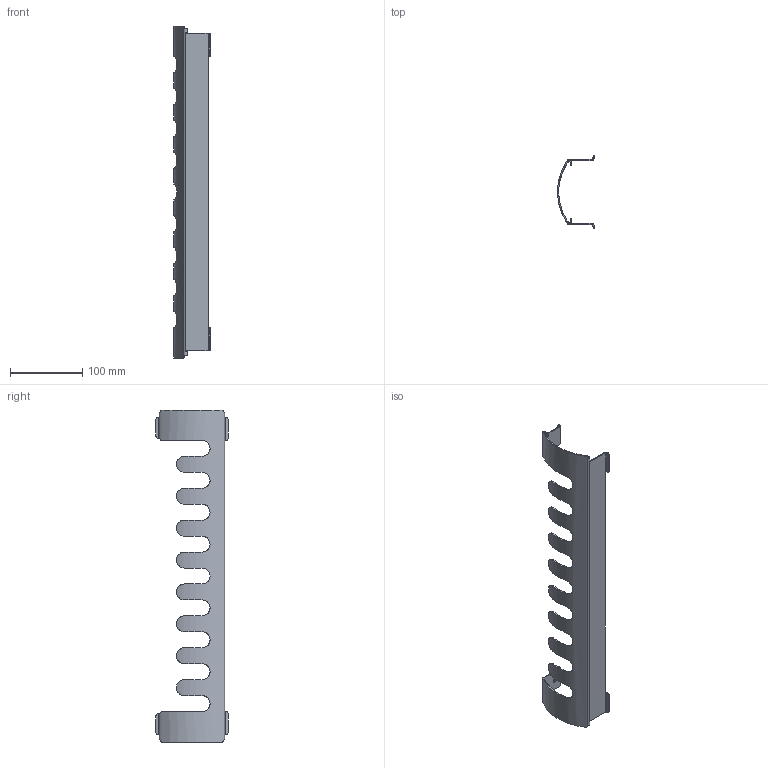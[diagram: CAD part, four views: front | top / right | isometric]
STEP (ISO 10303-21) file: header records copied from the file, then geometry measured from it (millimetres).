
FILE_DESCRIPTION((''),'2;1');
FILE_NAME('Z:\R\G\P\RGP035 - Grzejnik Simple\Work\Inventor\Marketing\AutoCad 3D\Simple 500 Wieszak.stp','2012-07-24T14:08:27',('DawPi'),(''),'Autodesk Inventor 2012','Autodesk Inventor 2012','');
FILE_SCHEMA(('AUTOMOTIVE_DESIGN { 1 0 10303 214 1 1 1 1 }'));
Length unit declared in the file: millimetre
Products named in the file (1): SIM-500-00.00.01 Wieszak
Bounding box: 50.72 x 99.65 x 458 mm (x, y, z)
Volume: 61994.9 mm3; surface area: 85886.5 mm2
Topology: 1 solids, 1 shells, 119 faces, 361 edges, 244 vertices
Faces by surface type: plane 67, cylinder 52
Full cylindrical faces by diameter (mm): 6 x1
Entity records: 4662 total; most frequent: CARTESIAN_POINT 1444, ORIENTED_EDGE 720, DIRECTION 622, EDGE_CURVE 360, VERTEX_POINT 244, AXIS2_PLACEMENT_3D 222, VECTOR 178, LINE 178
